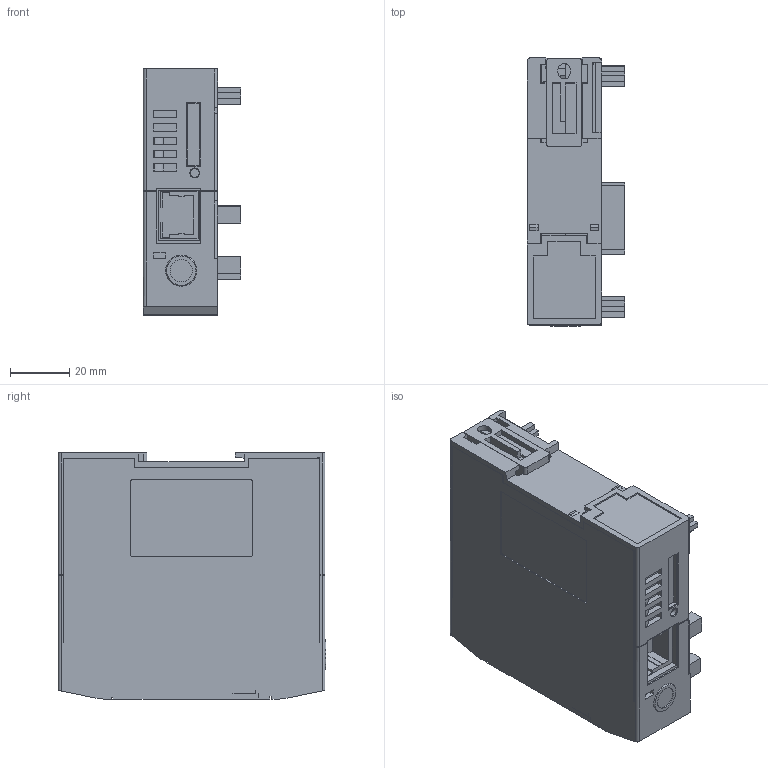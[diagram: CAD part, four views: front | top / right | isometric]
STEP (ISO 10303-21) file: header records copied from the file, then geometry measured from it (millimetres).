
FILE_DESCRIPTION((''),'2;1');
FILE_NAME('ADMI1D4401D0IM93_3_18_1_1','2019-05-17T16:27:00',('flexem'),(''),'CREO PARAMETRIC BY PTC INC, 2016510','CREO PARAMETRIC BY PTC INC, 2016510','');
FILE_SCHEMA(('CONFIG_CONTROL_DESIGN'));
Length unit declared in the file: millimetre
Products named in the file (1): ADMI1D4401D0IM93_3_18_1_1
Bounding box: 33 x 90.3 x 83 mm (x, y, z)
Volume: 178230.9 mm3; surface area: 33047.1 mm2
Topology: 2 solids, 14 shells, 670 faces, 1828 edges, 1215 vertices
Faces by surface type: plane 583, cylinder 77, cone 6, extrusion 3, torus 1
Entity records: 20998 total; most frequent: CARTESIAN_POINT 3933, ORIENTED_EDGE 3656, DIRECTION 3247, EDGE_CURVE 1828, VECTOR 1649, LINE 1646, VERTEX_POINT 1215, AXIS2_PLACEMENT_3D 799
